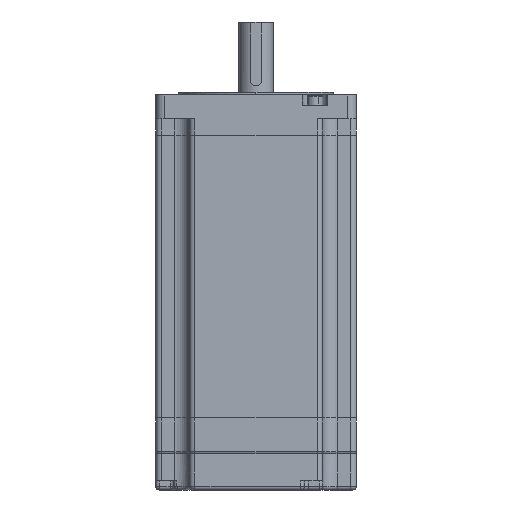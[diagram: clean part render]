
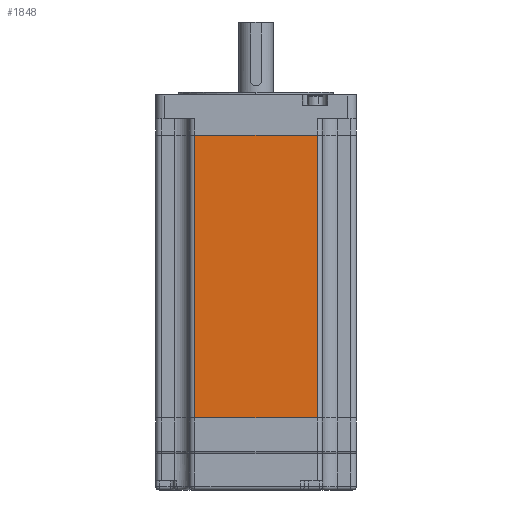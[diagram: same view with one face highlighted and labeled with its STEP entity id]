
A CAD part, left-side view. The second image highlights one B-rep face of the part: STEP entity #1848.
In plain terms, the highlighted planar face has unit normal (-1, 0, 0).
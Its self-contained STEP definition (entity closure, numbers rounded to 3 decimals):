
#19 = AXIS2_PLACEMENT_3D ( 'NONE', #1036, #17917, #4148 ) ;
#44 = EDGE_LOOP ( 'NONE', ( #6406, #12862, #3030, #5292 ) ) ;
#1036 = CARTESIAN_POINT ( 'NONE',  ( -55., -55., 155. ) ) ;
#1683 = LINE ( 'NONE', #6254, #15973 ) ;
#1690 = CARTESIAN_POINT ( 'NONE',  ( -55., 33.5, 155. ) ) ;
#1848 = ADVANCED_FACE ( 'NONE', ( #9432 ), #5435, .F. ) ;
#2309 = EDGE_CURVE ( 'NONE', #15176, #10009, #16565, .T. ) ;
#3030 = ORIENTED_EDGE ( 'NONE', *, *, #7212, .F. ) ;
#4148 = DIRECTION ( 'NONE',  ( 0., 0., -1. ) ) ;
#5145 = VERTEX_POINT ( 'NONE', #7310 ) ;
#5292 = ORIENTED_EDGE ( 'NONE', *, *, #5663, .T. ) ;
#5435 = PLANE ( 'NONE',  #19 ) ;
#5481 = CARTESIAN_POINT ( 'NONE',  ( -55., 33.5, 155. ) ) ;
#5663 = EDGE_CURVE ( 'NONE', #17083, #5145, #6400, .T. ) ;
#6254 = CARTESIAN_POINT ( 'NONE',  ( -55., -55., 155. ) ) ;
#6400 = LINE ( 'NONE', #1690, #16903 ) ;
#6406 = ORIENTED_EDGE ( 'NONE', *, *, #8932, .T. ) ;
#6568 = CARTESIAN_POINT ( 'NONE',  ( -55., -33.5, 155. ) ) ;
#6828 = VECTOR ( 'NONE', #12560, 1000. ) ;
#7212 = EDGE_CURVE ( 'NONE', #17083, #10009, #1683, .T. ) ;
#7310 = CARTESIAN_POINT ( 'NONE',  ( -55., 33.5, 0. ) ) ;
#8932 = EDGE_CURVE ( 'NONE', #5145, #15176, #11535, .T. ) ;
#9432 = FACE_OUTER_BOUND ( 'NONE', #44, .T. ) ;
#10009 = VERTEX_POINT ( 'NONE', #6568 ) ;
#11091 = CARTESIAN_POINT ( 'NONE',  ( -55., -55., 0. ) ) ;
#11535 = LINE ( 'NONE', #11091, #6828 ) ;
#12193 = CARTESIAN_POINT ( 'NONE',  ( -55., -33.5, 0. ) ) ;
#12560 = DIRECTION ( 'NONE',  ( 0., -1., 0. ) ) ;
#12772 = VECTOR ( 'NONE', #15857, 1000. ) ;
#12862 = ORIENTED_EDGE ( 'NONE', *, *, #2309, .T. ) ;
#14821 = DIRECTION ( 'NONE',  ( 0., -1., 0. ) ) ;
#14967 = CARTESIAN_POINT ( 'NONE',  ( -55., -33.5, 155. ) ) ;
#15176 = VERTEX_POINT ( 'NONE', #12193 ) ;
#15857 = DIRECTION ( 'NONE',  ( 0., 0., 1. ) ) ;
#15973 = VECTOR ( 'NONE', #14821, 1000. ) ;
#16565 = LINE ( 'NONE', #14967, #12772 ) ;
#16903 = VECTOR ( 'NONE', #17361, 1000. ) ;
#17083 = VERTEX_POINT ( 'NONE', #5481 ) ;
#17361 = DIRECTION ( 'NONE',  ( 0., 0., -1. ) ) ;
#17917 = DIRECTION ( 'NONE',  ( 1., 0., 0. ) ) ;
